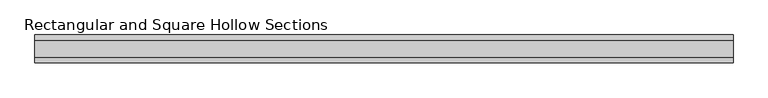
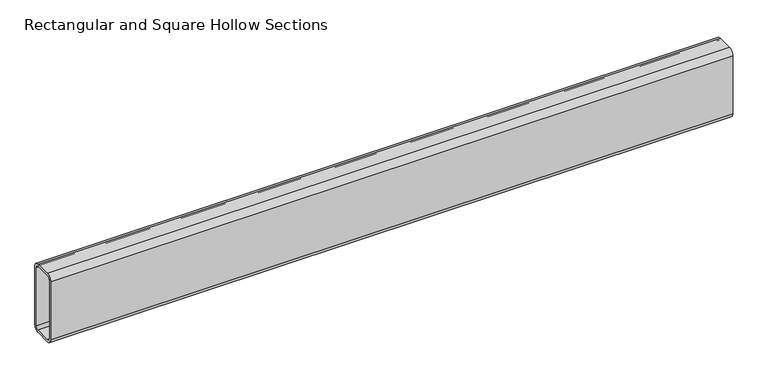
"""IFC4 building model written with IfcOpenShell, lengths in millimetres: beam geometry, Rectangular and Square Hollow Sections : TREC160x60x6."""

from ifc_helpers import new_model, si_unit, point, frame, frame_2d, origin, place, context, project, spatial, polyline, circle_curve, trimmed, segment, composite_curve, outline, extrude, source, transform, mapped, element, save


def rectangular_and_square_hollow_sections_24a7b1d7(model_context):
    return source(origin(), model_context, "Body", "SweptSolid", [
        extrude(outline(composite_curve([segment(polyline([(30.0, 68.0), (30.0, -68.0)]), True, "CONTINUOUS"), segment(trimmed(circle_curve(frame_2d((18.0, -68.0)), 12.0), [point((30.0, -68.0))], [point((18.0, -80.0))], False, "CARTESIAN"), True, "CONTINUOUS"), segment(polyline([(18.0, -80.0), (-18.0, -80.0)]), True, "CONTINUOUS"), segment(trimmed(circle_curve(frame_2d((-18.0, -68.0)), 12.0), [point((-18.0, -80.0))], [point((-30.0, -68.0))], False, "CARTESIAN"), True, "CONTINUOUS"), segment(polyline([(-30.0, -68.0), (-30.0, 68.0)]), True, "CONTINUOUS"), segment(trimmed(circle_curve(frame_2d((-18.0, 68.0)), 12.0), [point((-30.0, 68.0))], [point((-18.0, 80.0))], False, "CARTESIAN"), True, "CONTINUOUS"), segment(polyline([(-18.0, 80.0), (18.0, 80.0)]), True, "CONTINUOUS"), segment(trimmed(circle_curve(frame_2d((18.0, 68.0)), 12.0), [point((18.0, 80.0))], [point((30.0, 68.0))], False, "CARTESIAN"), True, "CONTINUOUS")], self_intersect=False), holes=[composite_curve([segment(trimmed(circle_curve(frame_2d((-18.0, 68.0)), 6.0), [point((-18.0, 74.0))], [point((-24.0, 68.0))], True, "CARTESIAN"), True, "CONTINUOUS"), segment(polyline([(-24.0, 68.0), (-24.0, -68.0)]), True, "CONTINUOUS"), segment(trimmed(circle_curve(frame_2d((-18.0, -68.0)), 6.0), [point((-24.0, -68.0))], [point((-18.0, -74.0))], True, "CARTESIAN"), True, "CONTINUOUS"), segment(polyline([(-18.0, -74.0), (18.0, -74.0)]), True, "CONTINUOUS"), segment(trimmed(circle_curve(frame_2d((18.0, -68.0)), 6.0), [point((18.0, -74.0))], [point((24.0, -68.0))], True, "CARTESIAN"), True, "CONTINUOUS"), segment(polyline([(24.0, -68.0), (24.0, 68.0)]), True, "CONTINUOUS"), segment(trimmed(circle_curve(frame_2d((18.0, 68.0)), 6.0), [point((24.0, 68.0))], [point((18.0, 74.0))], True, "CARTESIAN"), True, "CONTINUOUS"), segment(polyline([(18.0, 74.0), (-18.0, 74.0)]), True, "CONTINUOUS")], self_intersect=False)]), frame((-731.0, 0.0, 0.0), z_axis=(1.0, 0.0, 0.0), x_axis=(0.0, 1.0, 0.0)), (0.0, 0.0, 1.0), 1510.0),
    ])


if __name__ == "__main__":
    model = new_model("IFC4")
    model_context = context("Model", 3, world=origin())
    ifc_project = project(units=[si_unit("LENGTHUNIT", "METRE", prefix="MILLI")], contexts=[model_context])
    site = spatial("IfcSite", under=ifc_project)
    building = spatial("IfcBuilding", under=site)
    placement = place(None, origin())
    rectangular_and_square_hollow_sections_shape = rectangular_and_square_hollow_sections_24a7b1d7(model_context)
    element("IfcBeam", 1, ObjectType="Rectangular and Square Hollow Sections : TREC160x60x6", at=placement, inside=building, context=model_context, shape_type="MappedRepresentation", body=[
        mapped(rectangular_and_square_hollow_sections_shape, transform((0.0, 0.0, 0.0), x_axis=(1.0, 0.0, 0.0), y_axis=(0.0, 1.0, 0.0), z_axis=(0.0, 0.0, 1.0))),
    ])
    save(model, "model.ifc")
